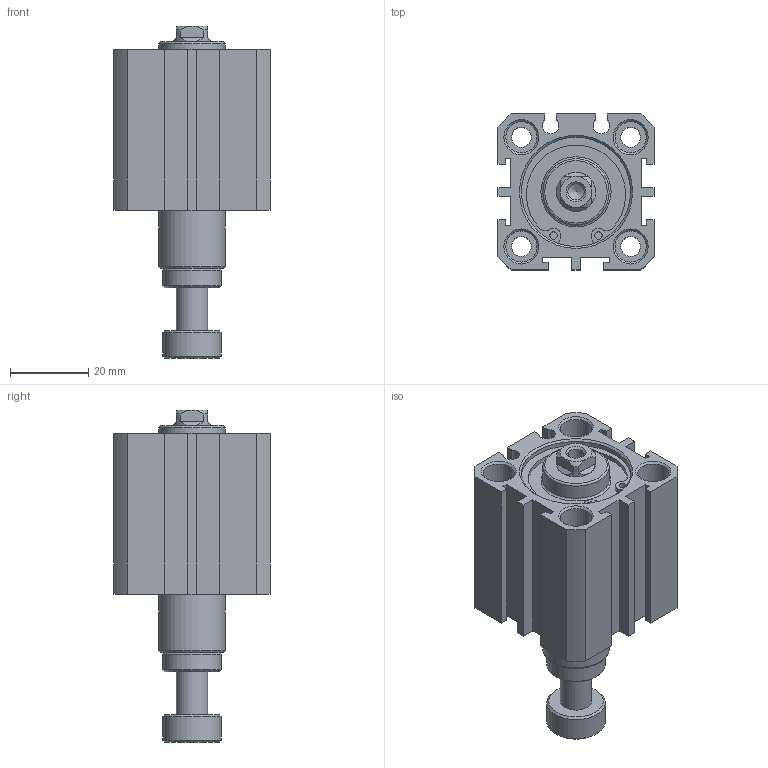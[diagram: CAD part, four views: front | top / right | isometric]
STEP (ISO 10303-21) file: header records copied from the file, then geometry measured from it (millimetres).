
FILE_DESCRIPTION((''),'2;1');
FILE_NAME('I:\3D電子目錄\氣缸\JDAR\JDAR\JDAR25\JDAR25x20.stp','2007-03-14T09:44:17',('662F206'),(''),'Autodesk Inventor 11','Autodesk Inventor 11','');
FILE_SCHEMA(('AUTOMOTIVE_DESIGN { 1 0 10303 214 1 1 1 1 }'));
Length unit declared in the file: millimetre
Products named in the file (3): JDAR25; R 形環 28
Assembly tree (3 placements, depth 2):
  JDAR25
    JDAR25
    R 形環 28  x2
Bounding box: 40 x 40 x 85.1 mm (x, y, z)
Volume: 57862.8 mm3; surface area: 19764.5 mm2
Topology: 3 solids, 3 shells, 165 faces, 384 edges, 249 vertices
Faces by surface type: plane 86, cylinder 48, cone 21, bspline 8, torus 2
Full cylindrical faces by diameter (mm): 1.5 x2, 1.9 x4, 5.1 x4, 8 x9, 10 x1, 15 x2, 17 x2, 28 x4, 29.4 x2
Entity records: 4249 total; most frequent: CARTESIAN_POINT 853, DIRECTION 706, ORIENTED_EDGE 588, EDGE_CURVE 294, AXIS2_PLACEMENT_3D 269, EDGE_LOOP 242, VERTEX_POINT 222, VECTOR 168
